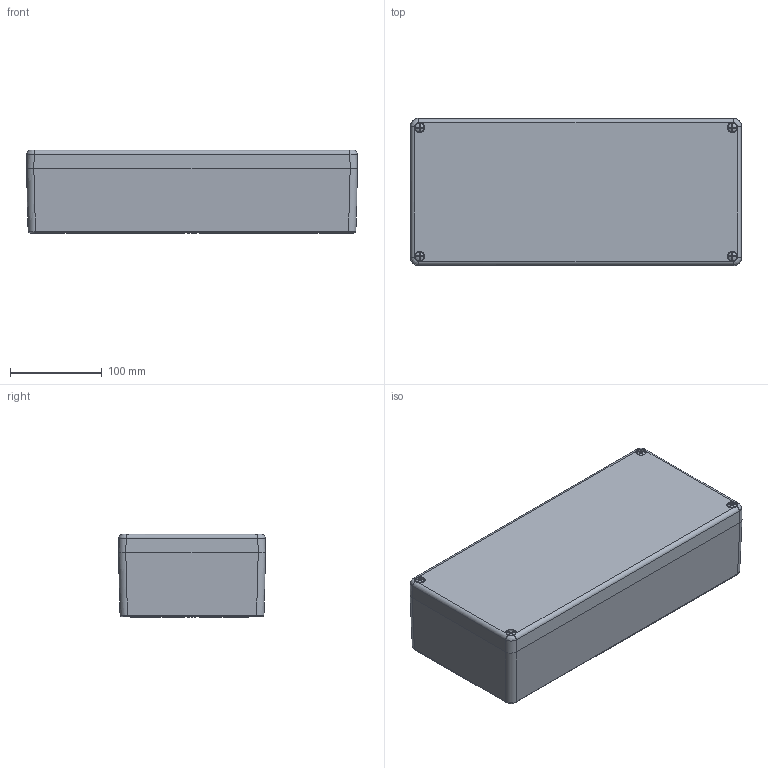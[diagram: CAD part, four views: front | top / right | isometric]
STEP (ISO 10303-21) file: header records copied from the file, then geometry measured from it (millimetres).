
FILE_DESCRIPTION(/* description */ (''),/* implementation_level */ '2;1');
FILE_NAME(/* name */ '4001276.stp',/* time_stamp */ '2019-06-12T08:06:18+02:00',/* author */ (''),/* organization */ (''),/* preprocessor_version */ 'ST-DEVELOPER v16.7',/* originating_system */ 'SIEMENS PLM Software NX 1867',/* authorisation */ '');
FILE_SCHEMA (('AUTOMOTIVE_DESIGN { 1 0 10303 214 3 1 1 1 }'));
Products named in the file (1): BSOM266C25DEz2nz
Bounding box: 360 x 160 x 91 mm (x, y, z)
Volume: 1140081.7 mm3; surface area: 420984 mm2
Topology: 6 solids, 6 shells, 950 faces, 2366 edges, 1468 vertices
Faces by surface type: plane 468, bspline 220, cylinder 186, cone 64, torus 8, sphere 4
Full cylindrical faces by diameter (mm): 4.5 x4, 6 x4, 7.5 x10, 10 x4
Entity records: 45556 total; most frequent: CARTESIAN_POINT 25313, ORIENTED_EDGE 4496, DIRECTION 3290, EDGE_CURVE 2248, VERTEX_POINT 1456, LINE 1308, VECTOR 1308, EDGE_LOOP 1112
